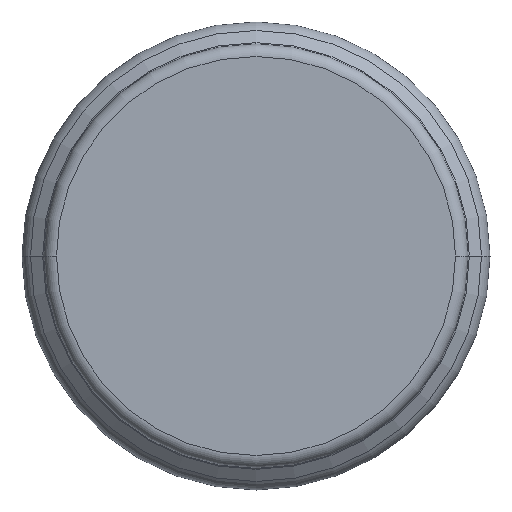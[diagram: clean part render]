
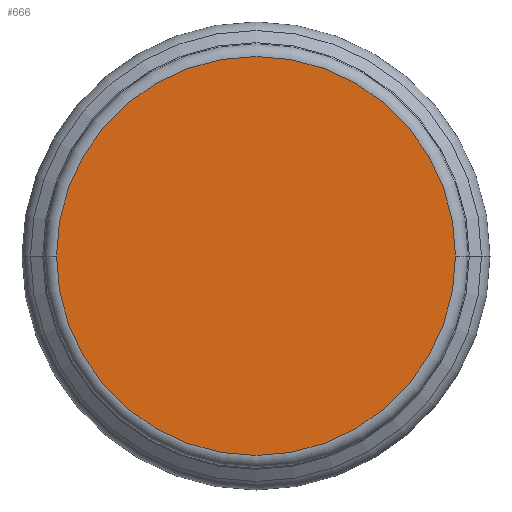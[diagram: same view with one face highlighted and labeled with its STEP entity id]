
A CAD part, left-side view. The second image highlights one B-rep face of the part: STEP entity #666.
In plain terms, the highlighted planar face has unit normal (-1, 0, 0).
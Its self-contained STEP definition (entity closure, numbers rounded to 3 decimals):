
#243=CARTESIAN_POINT('',(0.,0.,0.));
#244=DIRECTION('',(-1.,0.,0.));
#245=DIRECTION('',(0.,1.,0.));
#246=AXIS2_PLACEMENT_3D('',#243,#244,#245);
#251=CARTESIAN_POINT('',(0.,0.,0.));
#252=DIRECTION('',(1.,0.,0.));
#253=DIRECTION('',(0.,1.,0.));
#254=AXIS2_PLACEMENT_3D('',#251,#252,#253);
#410=CARTESIAN_POINT('',(0.,31.75,0.));
#412=VERTEX_POINT('',#410);
#416=CARTESIAN_POINT('',(0.,-31.75,0.));
#418=VERTEX_POINT('',#416);
#657=CARTESIAN_POINT('',(0.,0.,0.));
#658=DIRECTION('',(1.,0.,0.));
#659=DIRECTION('',(0.,-1.,0.));
#660=AXIS2_PLACEMENT_3D('',#657,#658,#659);
#661=PLANE('',#660);
#662=ORIENTED_EDGE('',*,*,#650,.F.);
#663=ORIENTED_EDGE('',*,*,#639,.T.);
#664=EDGE_LOOP('',(#662,#663));
#665=FACE_OUTER_BOUND('',#664,.F.);
#247=CIRCLE('',#246,31.75);
#255=CIRCLE('',#254,31.75);
#639=EDGE_CURVE('',#412,#418,#255,.T.);
#650=EDGE_CURVE('',#412,#418,#247,.T.);
#666=ADVANCED_FACE('',(#665),#661,.F.);
